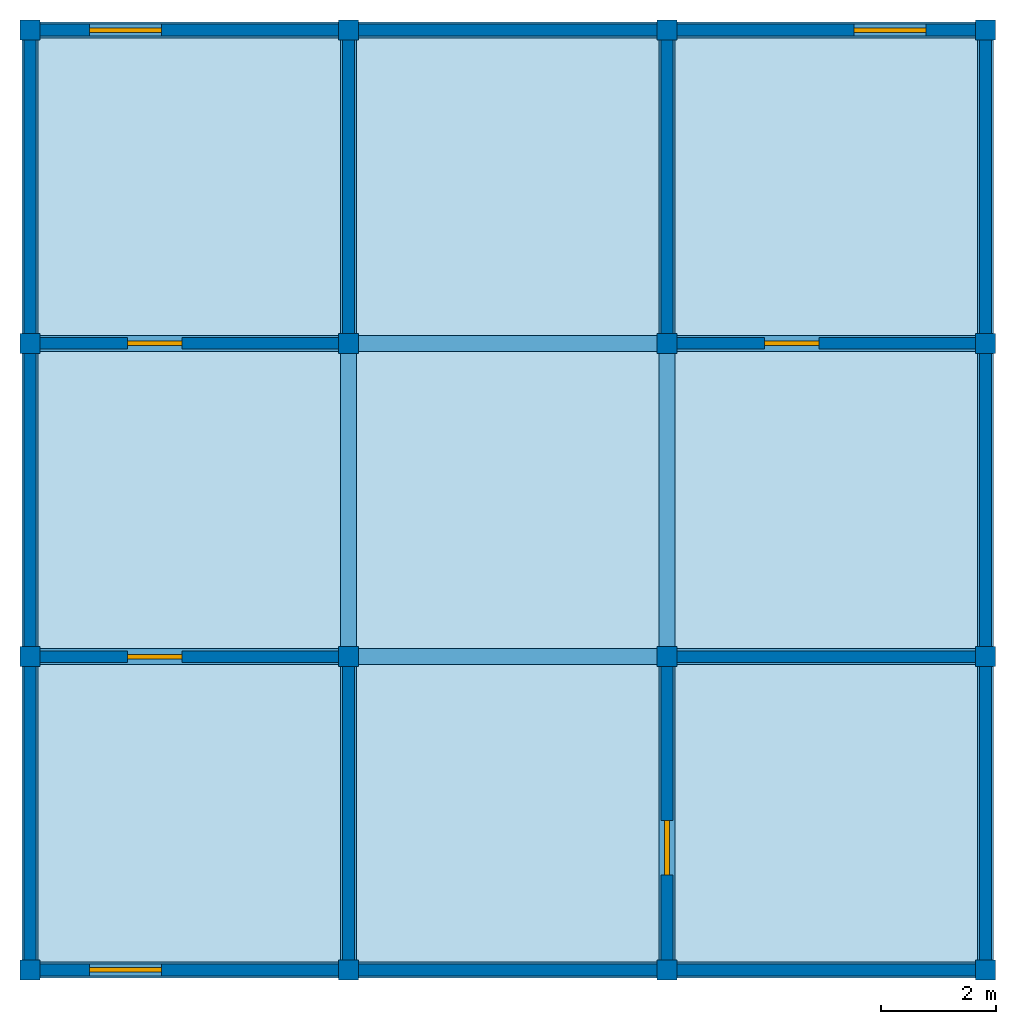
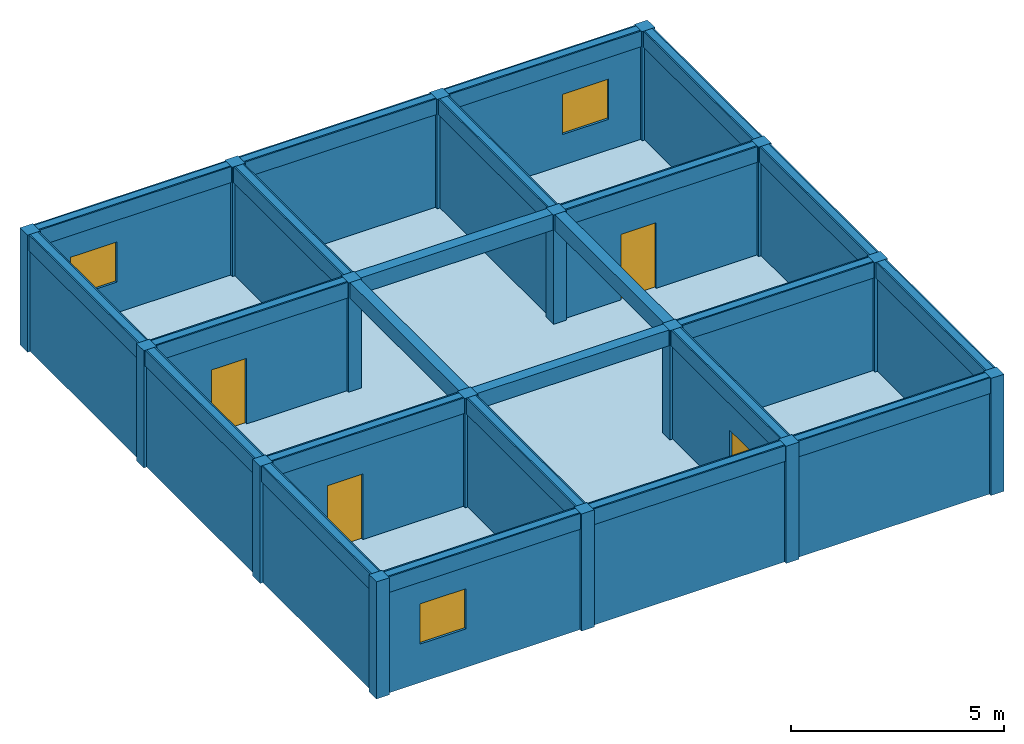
# One storey: 24 beams, 20 walls, 16 columns, 4 doors, 3 windows, 1 slab, 7 openings.
"""IFC4X3 building model written with IfcOpenShell, lengths in metres."""

import ifcopenshell
import ifcopenshell.guid

model = None  # the IFC model being written
_history = None  # IfcOwnerHistory: only IFC2X3 demands one
_inside = {}  # id of a spatial element -> (the spatial element, [elements in it])
_under = {}  # id of a project, library or spatial element -> (it, [spatial elements below it])
_declared = {}  # id of a project -> (the project, [libraries it declares])
_typed = {}  # id of a type object -> (the type object, [elements of that type])
_made_of = {}  # id of a material, layer set ... -> (it, [elements and type objects made of it])


def new_model(schema):
    """Start an empty IFC model of exactly this schema.

    Asked for "IFC4X3", IfcOpenShell would pick the latest addendum, in which some entities
    have other attributes; the version numbers below select the first issue.
    IFC2X3 requires an IfcOwnerHistory on every rooted entity: one is made here for all.
    """
    global model, _history
    if schema == "IFC4X3":
        model = ifcopenshell.file(schema_version=(4, 3, 0, 0))
    else:
        model = ifcopenshell.file(schema=schema)
    _inside.clear()
    _under.clear()
    _declared.clear()
    _typed.clear()
    _made_of.clear()
    _history = None
    if model.schema == "IFC2X3":
        org = make("IfcOrganization", Name="unknown")
        user = make(
            "IfcPersonAndOrganization",
            ThePerson=make("IfcPerson", FamilyName="unknown"),
            TheOrganization=org,
        )
        app = make(
            "IfcApplication",
            ApplicationDeveloper=org,
            Version="unknown",
            ApplicationFullName="unknown",
            ApplicationIdentifier="unknown",
        )
        _history = make(
            "IfcOwnerHistory",
            OwningUser=user,
            OwningApplication=app,
            ChangeAction="ADDED",
            CreationDate=0,
        )
    return model


def make(cls, **values):
    """One entity of the class cls with the attributes given. An attribute that is None is left unset."""
    return model.create_entity(
        cls, **{name: value for name, value in values.items() if value is not None}
    )


def rooted(cls, **values):
    """An entity with a GlobalId (a new one), such as an element, a storey or a relation."""
    return make(cls, GlobalId=ifcopenshell.guid.new(), OwnerHistory=_history, **values)


def si_unit(unit_type, name, prefix=None):
    """IfcSIUnit, for example si_unit("LENGTHUNIT", "METRE", prefix="MILLI")."""
    return make("IfcSIUnit", UnitType=unit_type, Prefix=prefix, Name=name)


def assignment(units):
    """IfcUnitAssignment: the units of a project."""
    return None if units is None else make("IfcUnitAssignment", Units=units)


def point(xyz):
    """IfcCartesianPoint."""
    return None if xyz is None else make("IfcCartesianPoint", Coordinates=xyz)


def direction(xyz):
    """IfcDirection."""
    return None if xyz is None else make("IfcDirection", DirectionRatios=xyz)


def frame(location, z_axis=None, x_axis=None):
    """IfcAxis2Placement3D, a coordinate frame: its origin and axes. An axis left out is left unset."""
    return make(
        "IfcAxis2Placement3D",
        Location=point(location),
        Axis=direction(z_axis),
        RefDirection=direction(x_axis),
    )


def frame_2d(location, x_axis=None):
    """IfcAxis2Placement2D, a coordinate frame in the plane: its origin and x axis."""
    return make(
        "IfcAxis2Placement2D", Location=point(location), RefDirection=direction(x_axis)
    )


def origin_with_axes():
    """The frame at (0, 0, 0) with the z axis (0, 0, 1) and the x axis (1, 0, 0) written out."""
    return frame((0.0, 0.0, 0.0), z_axis=(0.0, 0.0, 1.0), x_axis=(1.0, 0.0, 0.0))


def origin_2d():
    """The frame at (0, 0) in the plane with its x axis left unset."""
    return frame_2d((0.0, 0.0))


def place(relative_to, where):
    """IfcLocalPlacement: puts the frame where relative to a parent placement (None: the world)."""
    return make(
        "IfcLocalPlacement", PlacementRelTo=relative_to, RelativePlacement=where
    )


def context(
    kind, dimensions, precision=None, world=None, true_north=None, identifier=None
):
    """IfcGeometricRepresentationContext, for example the 3D "Model" context."""
    return make(
        "IfcGeometricRepresentationContext",
        ContextIdentifier=identifier,
        ContextType=kind,
        CoordinateSpaceDimension=dimensions,
        Precision=precision,
        WorldCoordinateSystem=world,
        TrueNorth=true_north,
    )


def project(units=None, contexts=None):
    """IfcProject with its units and contexts."""
    return rooted(
        "IfcProject",
        Name="project",
        RepresentationContexts=contexts,
        UnitsInContext=assignment(units),
    )


def spatial(cls, under=None, at=None, **own):
    """A site, building, storey or space (cls), placed at a placement, below another one or the project."""
    s = rooted(cls, ObjectPlacement=at, **own)
    if under is not None:
        _under.setdefault(under.id(), (under, []))[1].append(s)
    return s


def profile(cls, at=None, kind="AREA", **sizes):
    """A parametric profile (cls). Its sizes go by their IFC names, for example OverallWidth=200.0."""
    return make(cls, ProfileType=kind, Position=at, **sizes)


def rectangle(**sizes):
    """IfcRectangleProfileDef."""
    return profile("IfcRectangleProfileDef", **sizes)


def extrude(swept, where, along, depth):
    """IfcExtrudedAreaSolid: the profile swept, set in the frame where, extruded along a direction by depth."""
    return make(
        "IfcExtrudedAreaSolid",
        SweptArea=swept,
        Position=where,
        ExtrudedDirection=direction(along),
        Depth=depth,
    )


def shape(context_of_items, identifier, shape_type, items):
    """IfcShapeRepresentation: the items that make up one representation, for example the "Body"."""
    return make(
        "IfcShapeRepresentation",
        ContextOfItems=context_of_items,
        RepresentationIdentifier=identifier,
        RepresentationType=shape_type,
        Items=items,
    )


def material(Name=None, Category=None):
    """IfcMaterial."""
    return make("IfcMaterial", Name=Name, Category=Category)


def made_of(thing, what):
    """Note that an element or type object is made of a material, layer set ...; save() writes the relation."""
    if what is not None:
        _made_of.setdefault(what.id(), (what, []))[1].append(thing)
    return thing


def element(
    cls,
    number,
    at=None,
    inside=None,
    cuts=None,
    type_object=None,
    material=None,
    context=None,
    identifier="Body",
    shape_type=None,
    held_by="IfcProductDefinitionShape",
    body=None,
    shapes=None,
    **own,
):
    """One element of the class cls, such as IfcWall. Its Tag is "e" and its number.

    at: its placement. inside: the storey or other place that contains it. cuts: it is an
    opening in that element (IfcRelVoidsElement). A single representation is given by context,
    identifier, shape_type and body (its items); several are given by shapes. held_by: the class
    of the entity that holds the representations. save() writes the other relations.
    """
    e = rooted(cls, Tag="e%d" % number, ObjectPlacement=at, **own)
    if body is not None:
        shapes = [shape(context, identifier, shape_type, body)]
    if shapes is not None:
        e.Representation = make(held_by, Representations=shapes)
    if inside is not None:
        _inside.setdefault(inside.id(), (inside, []))[1].append(e)
    if cuts is not None:
        rooted(
            "IfcRelVoidsElement", RelatingBuildingElement=cuts, RelatedOpeningElement=e
        )
    if type_object is not None:
        _typed.setdefault(type_object.id(), (type_object, []))[1].append(e)
    return made_of(e, material)


def fill(opening, filler):
    """IfcRelFillsElement: the door or window that sits in an opening."""
    return rooted(
        "IfcRelFillsElement",
        RelatingOpeningElement=opening,
        RelatedBuildingElement=filler,
    )


def aggregate(whole, parts):
    """IfcRelAggregates: a whole, such as a stair, and the parts it consists of."""
    return rooted("IfcRelAggregates", RelatingObject=whole, RelatedObjects=parts)


def save(model, path):
    """Write the relations noted so far, then the file.

    IfcRelAggregates (storeys below a building ...), IfcRelContainedInSpatialStructure (elements
    in a storey), IfcRelDefinesByType, IfcRelAssociatesMaterial and IfcRelDeclares: one each for
    every whole, place, type object, material and project.
    """
    for whole, parts in _under.values():
        aggregate(whole, parts)
    for where, things in _inside.values():
        rooted(
            "IfcRelContainedInSpatialStructure",
            RelatedElements=things,
            RelatingStructure=where,
        )
    for kind, things in _typed.values():
        rooted("IfcRelDefinesByType", RelatedObjects=things, RelatingType=kind)
    for what, things in _made_of.values():
        rooted("IfcRelAssociatesMaterial", RelatedObjects=things, RelatingMaterial=what)
    for by, libraries in _declared.values():
        rooted("IfcRelDeclares", RelatingContext=by, RelatedDefinitions=libraries)
    model.write(path)


model = new_model("IFC4X3")

# Units and contexts
model_context = context("Model", 3, precision=1e-05, world=origin_with_axes())
ifc_project = project(units=[si_unit("LENGTHUNIT", "METRE"), si_unit("AREAUNIT", "SQUARE_METRE"), si_unit("VOLUMEUNIT", "CUBIC_METRE")], contexts=[model_context])

# Site, building, storey
site = spatial("IfcSite", under=ifc_project, Name="La Serena Parcel", CompositionType="ELEMENT")
building = spatial("IfcBuilding", under=site, Name="Atlas Building", CompositionType="ELEMENT")
storey = spatial("IfcBuildingStorey", under=building, Name="Level 6", CompositionType="ELEMENT", Elevation=16.75)

# Columns
ifc_material_1 = material(Name="Timber")
column_1_placement = place(None, frame((-8.31, -8.175, 16.745), z_axis=(0.0, 0.0, 1.0), x_axis=(1.0, 0.0, 0.0)))
element("IfcColumn", 1, at=column_1_placement, inside=storey, material=ifc_material_1, Name="Column 6.1", ObjectType="Core Column", PredefinedType="NOTDEFINED", context=model_context, shape_type="SweptSolid", body=[
    extrude(rectangle(XDim=0.35, YDim=0.35, at=origin_2d()), origin_with_axes(), (0.0, 0.0, 1.0), 3.349),
])
column_2_placement = place(None, frame((-8.31, -2.725, 16.745), z_axis=(0.0, 0.0, 1.0), x_axis=(1.0, 0.0, 0.0)))
element("IfcColumn", 2, at=column_2_placement, inside=storey, material=ifc_material_1, Name="Column 6.2", ObjectType="Corner Column", PredefinedType="NOTDEFINED", context=model_context, shape_type="SweptSolid", body=[
    extrude(rectangle(XDim=0.35, YDim=0.35, at=origin_2d()), origin_with_axes(), (0.0, 0.0, 1.0), 3.349),
])
column_3_placement = place(None, frame((-8.31, 2.725, 16.745), z_axis=(0.0, 0.0, 1.0), x_axis=(1.0, 0.0, 0.0)))
element("IfcColumn", 3, at=column_3_placement, inside=storey, material=ifc_material_1, Name="Column 6.3", ObjectType="Corner Column", PredefinedType="COLUMN", context=model_context, shape_type="SweptSolid", body=[
    extrude(rectangle(XDim=0.35, YDim=0.35, at=origin_2d()), origin_with_axes(), (0.0, 0.0, 1.0), 3.349),
])
column_4_placement = place(None, frame((-8.31, 8.175, 16.745), z_axis=(0.0, 0.0, 1.0), x_axis=(1.0, 0.0, 0.0)))
element("IfcColumn", 4, at=column_4_placement, inside=storey, material=ifc_material_1, Name="Column 6.4", ObjectType="Facade Column", PredefinedType="NOTDEFINED", context=model_context, shape_type="SweptSolid", body=[
    extrude(rectangle(XDim=0.35, YDim=0.35, at=origin_2d()), origin_with_axes(), (0.0, 0.0, 1.0), 3.349),
])
column_5_placement = place(None, frame((-2.77, -8.175, 16.745), z_axis=(0.0, 0.0, 1.0), x_axis=(1.0, 0.0, 0.0)))
element("IfcColumn", 5, at=column_5_placement, inside=storey, material=ifc_material_1, Name="Column 6.5", ObjectType="Core Column", PredefinedType="NOTDEFINED", context=model_context, shape_type="SweptSolid", body=[
    extrude(rectangle(XDim=0.35, YDim=0.35, at=origin_2d()), origin_with_axes(), (0.0, 0.0, 1.0), 3.349),
])
column_6_placement = place(None, frame((-2.77, -2.725, 16.745), z_axis=(0.0, 0.0, 1.0), x_axis=(1.0, 0.0, 0.0)))
element("IfcColumn", 6, at=column_6_placement, inside=storey, material=ifc_material_1, Name="Column 6.6", ObjectType="Facade Column", PredefinedType="USERDEFINED", context=model_context, shape_type="SweptSolid", body=[
    extrude(rectangle(XDim=0.35, YDim=0.35, at=origin_2d()), origin_with_axes(), (0.0, 0.0, 1.0), 3.349),
])
column_7_placement = place(None, frame((-2.77, 2.725, 16.745), z_axis=(0.0, 0.0, 1.0), x_axis=(1.0, 0.0, 0.0)))
element("IfcColumn", 7, at=column_7_placement, inside=storey, material=ifc_material_1, Name="Column 6.7", ObjectType="Structural Column", PredefinedType="COLUMN", context=model_context, shape_type="SweptSolid", body=[
    extrude(rectangle(XDim=0.35, YDim=0.35, at=origin_2d()), origin_with_axes(), (0.0, 0.0, 1.0), 3.349),
])
column_8_placement = place(None, frame((-2.77, 8.175, 16.745), z_axis=(0.0, 0.0, 1.0), x_axis=(1.0, 0.0, 0.0)))
element("IfcColumn", 8, at=column_8_placement, inside=storey, material=ifc_material_1, Name="Column 6.8", ObjectType="Facade Column", PredefinedType="USERDEFINED", context=model_context, shape_type="SweptSolid", body=[
    extrude(rectangle(XDim=0.35, YDim=0.35, at=origin_2d()), origin_with_axes(), (0.0, 0.0, 1.0), 3.349),
])
column_9_placement = place(None, frame((2.77, -8.175, 16.745), z_axis=(0.0, 0.0, 1.0), x_axis=(1.0, 0.0, 0.0)))
element("IfcColumn", 9, at=column_9_placement, inside=storey, material=ifc_material_1, Name="Column 6.9", ObjectType="Core Column", PredefinedType="NOTDEFINED", context=model_context, shape_type="SweptSolid", body=[
    extrude(rectangle(XDim=0.35, YDim=0.35, at=origin_2d()), origin_with_axes(), (0.0, 0.0, 1.0), 3.349),
])
column_10_placement = place(None, frame((2.77, -2.725, 16.745), z_axis=(0.0, 0.0, 1.0), x_axis=(1.0, 0.0, 0.0)))
element("IfcColumn", 10, at=column_10_placement, inside=storey, material=ifc_material_1, Name="Column 6.10", ObjectType="Structural Column", PredefinedType="NOTDEFINED", context=model_context, shape_type="SweptSolid", body=[
    extrude(rectangle(XDim=0.35, YDim=0.35, at=origin_2d()), origin_with_axes(), (0.0, 0.0, 1.0), 3.349),
])
column_11_placement = place(None, frame((2.77, 2.725, 16.745), z_axis=(0.0, 0.0, 1.0), x_axis=(1.0, 0.0, 0.0)))
element("IfcColumn", 11, at=column_11_placement, inside=storey, material=ifc_material_1, Name="Column 6.11", ObjectType="Structural Column", PredefinedType="USERDEFINED", context=model_context, shape_type="SweptSolid", body=[
    extrude(rectangle(XDim=0.35, YDim=0.35, at=origin_2d()), origin_with_axes(), (0.0, 0.0, 1.0), 3.349),
])
column_12_placement = place(None, frame((2.77, 8.175, 16.745), z_axis=(0.0, 0.0, 1.0), x_axis=(1.0, 0.0, 0.0)))
element("IfcColumn", 12, at=column_12_placement, inside=storey, material=ifc_material_1, Name="Column 6.12", ObjectType="Corner Column", PredefinedType="USERDEFINED", context=model_context, shape_type="SweptSolid", body=[
    extrude(rectangle(XDim=0.35, YDim=0.35, at=origin_2d()), origin_with_axes(), (0.0, 0.0, 1.0), 3.349),
])
column_13_placement = place(None, frame((8.31, -8.175, 16.745), z_axis=(0.0, 0.0, 1.0), x_axis=(1.0, 0.0, 0.0)))
element("IfcColumn", 13, at=column_13_placement, inside=storey, material=ifc_material_1, Name="Column 6.13", ObjectType="Facade Column", PredefinedType="USERDEFINED", context=model_context, shape_type="SweptSolid", body=[
    extrude(rectangle(XDim=0.35, YDim=0.35, at=origin_2d()), origin_with_axes(), (0.0, 0.0, 1.0), 3.349),
])
column_14_placement = place(None, frame((8.31, -2.725, 16.745), z_axis=(0.0, 0.0, 1.0), x_axis=(1.0, 0.0, 0.0)))
element("IfcColumn", 14, at=column_14_placement, inside=storey, material=ifc_material_1, Name="Column 6.14", ObjectType="Core Column", PredefinedType="USERDEFINED", context=model_context, shape_type="SweptSolid", body=[
    extrude(rectangle(XDim=0.35, YDim=0.35, at=origin_2d()), origin_with_axes(), (0.0, 0.0, 1.0), 3.349),
])
column_15_placement = place(None, frame((8.31, 2.725, 16.745), z_axis=(0.0, 0.0, 1.0), x_axis=(1.0, 0.0, 0.0)))
element("IfcColumn", 15, at=column_15_placement, inside=storey, material=ifc_material_1, Name="Column 6.15", ObjectType="Structural Column", PredefinedType="NOTDEFINED", context=model_context, shape_type="SweptSolid", body=[
    extrude(rectangle(XDim=0.35, YDim=0.35, at=origin_2d()), origin_with_axes(), (0.0, 0.0, 1.0), 3.349),
])
column_16_placement = place(None, frame((8.31, 8.175, 16.745), z_axis=(0.0, 0.0, 1.0), x_axis=(1.0, 0.0, 0.0)))
element("IfcColumn", 16, at=column_16_placement, inside=storey, material=ifc_material_1, Name="Column 6.16", ObjectType="Corner Column", PredefinedType="PILASTER", context=model_context, shape_type="SweptSolid", body=[
    extrude(rectangle(XDim=0.35, YDim=0.35, at=origin_2d()), origin_with_axes(), (0.0, 0.0, 1.0), 3.349),
])

# Beams
ifc_material_2 = material(Name="Concrete")
beam_1_placement = place(None, frame((-5.54, -8.175, 19.644), z_axis=(0.0, 0.0, 1.0), x_axis=(1.0, 0.0, 0.0)))
element("IfcBeam", 17, at=beam_1_placement, inside=storey, material=ifc_material_2, Name="Beam 6.1", ObjectType="Primary Beam", PredefinedType="SPANDREL", context=model_context, shape_type="SweptSolid", body=[
    extrude(rectangle(XDim=5.54, YDim=0.28, at=origin_2d()), origin_with_axes(), (0.0, 0.0, 1.0), 0.45),
])
beam_2_placement = place(None, frame((0.0, -8.175, 19.644), z_axis=(0.0, 0.0, 1.0), x_axis=(1.0, 0.0, 0.0)))
element("IfcBeam", 18, at=beam_2_placement, inside=storey, material=ifc_material_2, Name="Beam 6.2", ObjectType="Secondary Beam", PredefinedType="T_BEAM", context=model_context, shape_type="SweptSolid", body=[
    extrude(rectangle(XDim=5.54, YDim=0.28, at=origin_2d()), origin_with_axes(), (0.0, 0.0, 1.0), 0.45),
])
beam_3_placement = place(None, frame((5.54, -8.175, 19.644), z_axis=(0.0, 0.0, 1.0), x_axis=(1.0, 0.0, 0.0)))
element("IfcBeam", 19, at=beam_3_placement, inside=storey, material=ifc_material_2, Name="Beam 6.3", ObjectType="Transfer Beam", PredefinedType="NOTDEFINED", context=model_context, shape_type="SweptSolid", body=[
    extrude(rectangle(XDim=5.54, YDim=0.28, at=origin_2d()), origin_with_axes(), (0.0, 0.0, 1.0), 0.45),
])
beam_4_placement = place(None, frame((-5.54, -2.725, 19.644), z_axis=(0.0, 0.0, 1.0), x_axis=(1.0, 0.0, 0.0)))
element("IfcBeam", 20, at=beam_4_placement, inside=storey, material=ifc_material_2, Name="Beam 6.4", ObjectType="Secondary Beam", PredefinedType="USERDEFINED", context=model_context, shape_type="SweptSolid", body=[
    extrude(rectangle(XDim=5.54, YDim=0.28, at=origin_2d()), origin_with_axes(), (0.0, 0.0, 1.0), 0.45),
])
beam_5_placement = place(None, frame((0.0, -2.725, 19.644), z_axis=(0.0, 0.0, 1.0), x_axis=(1.0, 0.0, 0.0)))
element("IfcBeam", 21, at=beam_5_placement, inside=storey, material=ifc_material_2, Name="Beam 6.5", ObjectType="Transfer Beam", PredefinedType="JOIST", context=model_context, shape_type="SweptSolid", body=[
    extrude(rectangle(XDim=5.54, YDim=0.28, at=origin_2d()), origin_with_axes(), (0.0, 0.0, 1.0), 0.45),
])
beam_6_placement = place(None, frame((5.54, -2.725, 19.644), z_axis=(0.0, 0.0, 1.0), x_axis=(1.0, 0.0, 0.0)))
element("IfcBeam", 22, at=beam_6_placement, inside=storey, material=ifc_material_2, Name="Beam 6.6", ObjectType="Secondary Beam", PredefinedType="JOIST", context=model_context, shape_type="SweptSolid", body=[
    extrude(rectangle(XDim=5.54, YDim=0.28, at=origin_2d()), origin_with_axes(), (0.0, 0.0, 1.0), 0.45),
])
beam_7_placement = place(None, frame((-5.54, 2.725, 19.644), z_axis=(0.0, 0.0, 1.0), x_axis=(1.0, 0.0, 0.0)))
element("IfcBeam", 23, at=beam_7_placement, inside=storey, material=ifc_material_2, Name="Beam 6.7", ObjectType="Rafter Beam", PredefinedType="SPANDREL", context=model_context, shape_type="SweptSolid", body=[
    extrude(rectangle(XDim=5.54, YDim=0.28, at=origin_2d()), origin_with_axes(), (0.0, 0.0, 1.0), 0.45),
])
beam_8_placement = place(None, frame((0.0, 2.725, 19.644), z_axis=(0.0, 0.0, 1.0), x_axis=(1.0, 0.0, 0.0)))
element("IfcBeam", 24, at=beam_8_placement, inside=storey, material=ifc_material_2, Name="Beam 6.8", ObjectType="Secondary Beam", PredefinedType="JOIST", context=model_context, shape_type="SweptSolid", body=[
    extrude(rectangle(XDim=5.54, YDim=0.28, at=origin_2d()), origin_with_axes(), (0.0, 0.0, 1.0), 0.45),
])
beam_9_placement = place(None, frame((5.54, 2.725, 19.644), z_axis=(0.0, 0.0, 1.0), x_axis=(1.0, 0.0, 0.0)))
element("IfcBeam", 25, at=beam_9_placement, inside=storey, material=ifc_material_2, Name="Beam 6.9", ObjectType="Ridge Beam", PredefinedType="HOLLOWCORE", context=model_context, shape_type="SweptSolid", body=[
    extrude(rectangle(XDim=5.54, YDim=0.28, at=origin_2d()), origin_with_axes(), (0.0, 0.0, 1.0), 0.45),
])
beam_10_placement = place(None, frame((-5.54, 8.175, 19.644), z_axis=(0.0, 0.0, 1.0), x_axis=(1.0, 0.0, 0.0)))
element("IfcBeam", 26, at=beam_10_placement, inside=storey, material=ifc_material_2, Name="Beam 6.10", ObjectType="Secondary Beam", PredefinedType="USERDEFINED", context=model_context, shape_type="SweptSolid", body=[
    extrude(rectangle(XDim=5.54, YDim=0.28, at=origin_2d()), origin_with_axes(), (0.0, 0.0, 1.0), 0.45),
])
beam_11_placement = place(None, frame((0.0, 8.175, 19.644), z_axis=(0.0, 0.0, 1.0), x_axis=(1.0, 0.0, 0.0)))
element("IfcBeam", 27, at=beam_11_placement, inside=storey, material=ifc_material_2, Name="Beam 6.11", ObjectType="Primary Beam", PredefinedType="JOIST", context=model_context, shape_type="SweptSolid", body=[
    extrude(rectangle(XDim=5.54, YDim=0.28, at=origin_2d()), origin_with_axes(), (0.0, 0.0, 1.0), 0.45),
])
beam_12_placement = place(None, frame((5.54, 8.175, 19.644), z_axis=(0.0, 0.0, 1.0), x_axis=(1.0, 0.0, 0.0)))
element("IfcBeam", 28, at=beam_12_placement, inside=storey, material=ifc_material_2, Name="Beam 6.12", ObjectType="Ridge Beam", PredefinedType="NOTDEFINED", context=model_context, shape_type="SweptSolid", body=[
    extrude(rectangle(XDim=5.54, YDim=0.28, at=origin_2d()), origin_with_axes(), (0.0, 0.0, 1.0), 0.45),
])
beam_13_placement = place(None, frame((-8.31, -5.45, 19.644), z_axis=(0.0, 0.0, 1.0), x_axis=(0.0, 1.0, 0.0)))
element("IfcBeam", 29, at=beam_13_placement, inside=storey, material=ifc_material_2, Name="Beam 6.13", ObjectType="Secondary Beam", PredefinedType="USERDEFINED", context=model_context, shape_type="SweptSolid", body=[
    extrude(rectangle(XDim=5.45, YDim=0.28, at=origin_2d()), origin_with_axes(), (0.0, 0.0, 1.0), 0.45),
])
beam_14_placement = place(None, frame((-8.31, 0.0, 19.644), z_axis=(0.0, 0.0, 1.0), x_axis=(0.0, 1.0, 0.0)))
element("IfcBeam", 30, at=beam_14_placement, inside=storey, material=ifc_material_2, Name="Beam 6.14", ObjectType="Transfer Beam", PredefinedType="JOIST", context=model_context, shape_type="SweptSolid", body=[
    extrude(rectangle(XDim=5.45, YDim=0.28, at=origin_2d()), origin_with_axes(), (0.0, 0.0, 1.0), 0.45),
])
beam_15_placement = place(None, frame((-8.31, 5.45, 19.644), z_axis=(0.0, 0.0, 1.0), x_axis=(0.0, 1.0, 0.0)))
element("IfcBeam", 31, at=beam_15_placement, inside=storey, material=ifc_material_2, Name="Beam 6.15", ObjectType="Primary Beam", PredefinedType="T_BEAM", context=model_context, shape_type="SweptSolid", body=[
    extrude(rectangle(XDim=5.45, YDim=0.28, at=origin_2d()), origin_with_axes(), (0.0, 0.0, 1.0), 0.45),
])
beam_16_placement = place(None, frame((-2.77, -5.45, 19.644), z_axis=(0.0, 0.0, 1.0), x_axis=(0.0, 1.0, 0.0)))
element("IfcBeam", 32, at=beam_16_placement, inside=storey, material=ifc_material_2, Name="Beam 6.16", ObjectType="Transfer Beam", PredefinedType="BEAM", context=model_context, shape_type="SweptSolid", body=[
    extrude(rectangle(XDim=5.45, YDim=0.28, at=origin_2d()), origin_with_axes(), (0.0, 0.0, 1.0), 0.45),
])
beam_17_placement = place(None, frame((-2.77, 0.0, 19.644), z_axis=(0.0, 0.0, 1.0), x_axis=(0.0, 1.0, 0.0)))
element("IfcBeam", 33, at=beam_17_placement, inside=storey, material=ifc_material_2, Name="Beam 6.17", ObjectType="Primary Beam", PredefinedType="BEAM", context=model_context, shape_type="SweptSolid", body=[
    extrude(rectangle(XDim=5.45, YDim=0.28, at=origin_2d()), origin_with_axes(), (0.0, 0.0, 1.0), 0.45),
])
beam_18_placement = place(None, frame((-2.77, 5.45, 19.644), z_axis=(0.0, 0.0, 1.0), x_axis=(0.0, 1.0, 0.0)))
element("IfcBeam", 34, at=beam_18_placement, inside=storey, material=ifc_material_2, Name="Beam 6.18", ObjectType="Rafter Beam", PredefinedType="USERDEFINED", context=model_context, shape_type="SweptSolid", body=[
    extrude(rectangle(XDim=5.45, YDim=0.28, at=origin_2d()), origin_with_axes(), (0.0, 0.0, 1.0), 0.45),
])
beam_19_placement = place(None, frame((2.77, -5.45, 19.644), z_axis=(0.0, 0.0, 1.0), x_axis=(0.0, 1.0, 0.0)))
element("IfcBeam", 35, at=beam_19_placement, inside=storey, material=ifc_material_2, Name="Beam 6.19", ObjectType="Transfer Beam", PredefinedType="USERDEFINED", context=model_context, shape_type="SweptSolid", body=[
    extrude(rectangle(XDim=5.45, YDim=0.28, at=origin_2d()), origin_with_axes(), (0.0, 0.0, 1.0), 0.45),
])
beam_20_placement = place(None, frame((2.77, 0.0, 19.644), z_axis=(0.0, 0.0, 1.0), x_axis=(0.0, 1.0, 0.0)))
element("IfcBeam", 36, at=beam_20_placement, inside=storey, material=ifc_material_2, Name="Beam 6.20", ObjectType="Secondary Beam", PredefinedType="NOTDEFINED", context=model_context, shape_type="SweptSolid", body=[
    extrude(rectangle(XDim=5.45, YDim=0.28, at=origin_2d()), origin_with_axes(), (0.0, 0.0, 1.0), 0.45),
])
beam_21_placement = place(None, frame((2.77, 5.45, 19.644), z_axis=(0.0, 0.0, 1.0), x_axis=(0.0, 1.0, 0.0)))
element("IfcBeam", 37, at=beam_21_placement, inside=storey, material=ifc_material_2, Name="Beam 6.21", ObjectType="Secondary Beam", PredefinedType="LINTEL", context=model_context, shape_type="SweptSolid", body=[
    extrude(rectangle(XDim=5.45, YDim=0.28, at=origin_2d()), origin_with_axes(), (0.0, 0.0, 1.0), 0.45),
])
beam_22_placement = place(None, frame((8.31, -5.45, 19.644), z_axis=(0.0, 0.0, 1.0), x_axis=(0.0, 1.0, 0.0)))
element("IfcBeam", 38, at=beam_22_placement, inside=storey, material=ifc_material_2, Name="Beam 6.22", ObjectType="Secondary Beam", PredefinedType="JOIST", context=model_context, shape_type="SweptSolid", body=[
    extrude(rectangle(XDim=5.45, YDim=0.28, at=origin_2d()), origin_with_axes(), (0.0, 0.0, 1.0), 0.45),
])
beam_23_placement = place(None, frame((8.31, 0.0, 19.644), z_axis=(0.0, 0.0, 1.0), x_axis=(0.0, 1.0, 0.0)))
element("IfcBeam", 39, at=beam_23_placement, inside=storey, material=ifc_material_2, Name="Beam 6.23", ObjectType="Secondary Beam", PredefinedType="LINTEL", context=model_context, shape_type="SweptSolid", body=[
    extrude(rectangle(XDim=5.45, YDim=0.28, at=origin_2d()), origin_with_axes(), (0.0, 0.0, 1.0), 0.45),
])
beam_24_placement = place(None, frame((8.31, 5.45, 19.644), z_axis=(0.0, 0.0, 1.0), x_axis=(0.0, 1.0, 0.0)))
element("IfcBeam", 40, at=beam_24_placement, inside=storey, material=ifc_material_2, Name="Beam 6.24", ObjectType="Secondary Beam", PredefinedType="JOIST", context=model_context, shape_type="SweptSolid", body=[
    extrude(rectangle(XDim=5.45, YDim=0.28, at=origin_2d()), origin_with_axes(), (0.0, 0.0, 1.0), 0.45),
])

# Slab
slab_placement = place(None, frame((0.0, 0.0, 16.75), z_axis=(0.0, 0.0, 1.0), x_axis=(1.0, 0.0, 0.0)))
element("IfcSlab", 41, at=slab_placement, inside=storey, material=ifc_material_2, Name="Slab 6", ObjectType="Floor Slab", PredefinedType="FLOOR", context=model_context, shape_type="SweptSolid", body=[
    extrude(rectangle(XDim=16.62, YDim=16.35, at=origin_2d()), origin_with_axes(), (0.0, 0.0, 1.0), 0.22),
])

# Wall, opening, door
ifc_material_3 = material(Name="Gypsum")
wall_1_placement = place(None, frame((-5.54, -2.725, 16.745), z_axis=(0.0, 0.0, 1.0), x_axis=(1.0, 0.0, 0.0)))
wall_1 = element("IfcWall", 42, at=wall_1_placement, inside=storey, material=ifc_material_3, Name="Wall 6.1", ObjectType="Corridor Partition", PredefinedType="NOTDEFINED", context=model_context, shape_type="SweptSolid", body=[
    extrude(rectangle(XDim=5.54, YDim=0.202565, at=origin_2d()), origin_with_axes(), (0.0, 0.0, 1.0), 3.349),
])
opening_1_placement = place(None, frame((-6.14, -2.725, 16.745), z_axis=(0.0, 0.0, 1.0), x_axis=(1.0, 0.0, 0.0)))
opening_1 = element("IfcOpeningElement", 43, at=opening_1_placement, cuts=wall_1, Name="Door opening 6.1", ObjectType="Door Opening", PredefinedType="OPENING", context=model_context, shape_type="SweptSolid", body=[
    extrude(rectangle(XDim=0.95, YDim=0.282565, at=origin_2d()), origin_with_axes(), (0.0, 0.0, 1.0), 2.1),
])
door_1_placement = place(None, frame((-6.14, -2.725, 16.745), z_axis=(0.0, 0.0, 1.0), x_axis=(1.0, 0.0, 0.0)))
door_1 = element("IfcDoor", 44, at=door_1_placement, inside=storey, Name="Door 6.1", ObjectType="Fire Door", OverallHeight=2.1, OverallWidth=0.95, context=model_context, shape_type="SweptSolid", body=[
    extrude(rectangle(XDim=0.95, YDim=0.08, at=origin_2d()), origin_with_axes(), (0.0, 0.0, 1.0), 2.1),
])
fill(opening_1, door_1)

# Wall
wall_2_placement = place(None, frame((-2.77, -5.45, 16.745), z_axis=(0.0, 0.0, 1.0), x_axis=(0.0, 1.0, 0.0)))
element("IfcWall", 45, at=wall_2_placement, inside=storey, material=ifc_material_2, Name="Wall 6.2", ObjectType="Corridor Partition", PredefinedType="ELEMENTEDWALL", context=model_context, shape_type="SweptSolid", body=[
    extrude(rectangle(XDim=5.45, YDim=0.202565, at=origin_2d()), origin_with_axes(), (0.0, 0.0, 1.0), 3.349),
])

# Wall, opening, window
ifc_material_4 = material(Name="CLT")
wall_3_placement = place(None, frame((-5.54, -8.175, 16.745), z_axis=(0.0, 0.0, 1.0), x_axis=(1.0, 0.0, 0.0)))
wall_3 = element("IfcWall", 46, at=wall_3_placement, inside=storey, material=ifc_material_4, Name="Wall 6.3", ObjectType="Exterior Wall", PredefinedType="PARTITIONING", context=model_context, shape_type="SweptSolid", body=[
    extrude(rectangle(XDim=5.54, YDim=0.202565, at=origin_2d()), origin_with_axes(), (0.0, 0.0, 1.0), 3.349),
])
opening_2_placement = place(None, frame((-6.648, -8.175, 17.845), z_axis=(0.0, 0.0, 1.0), x_axis=(1.0, 0.0, 0.0)))
opening_2 = element("IfcOpeningElement", 47, at=opening_2_placement, cuts=wall_3, Name="Window opening 6.2", ObjectType="Window Opening", PredefinedType="OPENING", context=model_context, shape_type="SweptSolid", body=[
    extrude(rectangle(XDim=1.25, YDim=0.282565, at=origin_2d()), origin_with_axes(), (0.0, 0.0, 1.0), 1.15),
])
window_1_placement = place(None, frame((-6.648, -8.175, 17.845), z_axis=(0.0, 0.0, 1.0), x_axis=(1.0, 0.0, 0.0)))
window_1 = element("IfcWindow", 48, at=window_1_placement, inside=storey, Name="Window 6.2", ObjectType="Fixed Window", OverallHeight=1.15, OverallWidth=1.25, context=model_context, shape_type="SweptSolid", body=[
    extrude(rectangle(XDim=1.25, YDim=0.08, at=origin_2d()), origin_with_axes(), (0.0, 0.0, 1.0), 1.15),
])
fill(opening_2, window_1)

# Wall
ifc_material_5 = material(Name="Brick")
wall_4_placement = place(None, frame((-8.31, -5.45, 16.745), z_axis=(0.0, 0.0, 1.0), x_axis=(0.0, 1.0, 0.0)))
element("IfcWall", 49, at=wall_4_placement, inside=storey, material=ifc_material_5, Name="Wall 6.4", ObjectType="Exterior Wall", PredefinedType="MOVABLE", context=model_context, shape_type="SweptSolid", body=[
    extrude(rectangle(XDim=5.45, YDim=0.202565, at=origin_2d()), origin_with_axes(), (0.0, 0.0, 1.0), 3.349),
])

# Wall, opening, door
wall_5_placement = place(None, frame((2.77, -5.45, 16.745), z_axis=(0.0, 0.0, 1.0), x_axis=(0.0, 1.0, 0.0)))
wall_5 = element("IfcWall", 50, at=wall_5_placement, inside=storey, material=ifc_material_4, Name="Wall 6.5", ObjectType="Corridor Partition", PredefinedType="POLYGONAL", context=model_context, shape_type="SweptSolid", body=[
    extrude(rectangle(XDim=5.45, YDim=0.202565, at=origin_2d()), origin_with_axes(), (0.0, 0.0, 1.0), 3.349),
])
opening_3_placement = place(None, frame((2.77, -6.05, 16.745), z_axis=(0.0, 0.0, 1.0), x_axis=(0.0, 1.0, 0.0)))
opening_3 = element("IfcOpeningElement", 51, at=opening_3_placement, cuts=wall_5, Name="Door opening 6.3", ObjectType="Door Opening", PredefinedType="OPENING", context=model_context, shape_type="SweptSolid", body=[
    extrude(rectangle(XDim=0.95, YDim=0.282565, at=origin_2d()), origin_with_axes(), (0.0, 0.0, 1.0), 2.1),
])
door_2_placement = place(None, frame((2.77, -6.05, 16.745), z_axis=(0.0, 0.0, 1.0), x_axis=(0.0, 1.0, 0.0)))
door_2 = element("IfcDoor", 52, at=door_2_placement, inside=storey, Name="Door 6.3", ObjectType="Entry Door", OverallHeight=2.1, OverallWidth=0.95, context=model_context, shape_type="SweptSolid", body=[
    extrude(rectangle(XDim=0.95, YDim=0.08, at=origin_2d()), origin_with_axes(), (0.0, 0.0, 1.0), 2.1),
])
fill(opening_3, door_2)

# Walls
wall_6_placement = place(None, frame((0.0, -8.175, 16.745), z_axis=(0.0, 0.0, 1.0), x_axis=(1.0, 0.0, 0.0)))
element("IfcWall", 53, at=wall_6_placement, inside=storey, material=ifc_material_5, Name="Wall 6.6", ObjectType="Exterior Wall", PredefinedType="STANDARD", context=model_context, shape_type="SweptSolid", body=[
    extrude(rectangle(XDim=5.54, YDim=0.202565, at=origin_2d()), origin_with_axes(), (0.0, 0.0, 1.0), 3.349),
])
wall_7_placement = place(None, frame((5.54, -2.725, 16.745), z_axis=(0.0, 0.0, 1.0), x_axis=(1.0, 0.0, 0.0)))
element("IfcWall", 54, at=wall_7_placement, inside=storey, material=ifc_material_4, Name="Wall 6.7", ObjectType="Corridor Partition", PredefinedType="MOVABLE", context=model_context, shape_type="SweptSolid", body=[
    extrude(rectangle(XDim=5.54, YDim=0.202565, at=origin_2d()), origin_with_axes(), (0.0, 0.0, 1.0), 3.349),
])
wall_8_placement = place(None, frame((8.31, -5.45, 16.745), z_axis=(0.0, 0.0, 1.0), x_axis=(0.0, 1.0, 0.0)))
element("IfcWall", 55, at=wall_8_placement, inside=storey, material=ifc_material_2, Name="Wall 6.8", ObjectType="Exterior Wall", PredefinedType="STANDARD", context=model_context, shape_type="SweptSolid", body=[
    extrude(rectangle(XDim=5.45, YDim=0.202565, at=origin_2d()), origin_with_axes(), (0.0, 0.0, 1.0), 3.349),
])
wall_9_placement = place(None, frame((5.54, -8.175, 16.745), z_axis=(0.0, 0.0, 1.0), x_axis=(1.0, 0.0, 0.0)))
element("IfcWall", 56, at=wall_9_placement, inside=storey, material=ifc_material_5, Name="Wall 6.9", ObjectType="Exterior Wall", PredefinedType="SHEAR", context=model_context, shape_type="SweptSolid", body=[
    extrude(rectangle(XDim=5.54, YDim=0.202565, at=origin_2d()), origin_with_axes(), (0.0, 0.0, 1.0), 3.349),
])

# Wall, opening, door
wall_10_placement = place(None, frame((-5.54, 2.725, 16.745), z_axis=(0.0, 0.0, 1.0), x_axis=(1.0, 0.0, 0.0)))
wall_10 = element("IfcWall", 57, at=wall_10_placement, inside=storey, material=ifc_material_4, Name="Wall 6.10", ObjectType="Corridor Partition", PredefinedType="USERDEFINED", context=model_context, shape_type="SweptSolid", body=[
    extrude(rectangle(XDim=5.54, YDim=0.202565, at=origin_2d()), origin_with_axes(), (0.0, 0.0, 1.0), 3.349),
])
opening_4_placement = place(None, frame((-6.14, 2.725, 16.745), z_axis=(0.0, 0.0, 1.0), x_axis=(1.0, 0.0, 0.0)))
opening_4 = element("IfcOpeningElement", 58, at=opening_4_placement, cuts=wall_10, Name="Door opening 6.4", ObjectType="Door Opening", PredefinedType="OPENING", context=model_context, shape_type="SweptSolid", body=[
    extrude(rectangle(XDim=0.95, YDim=0.282565, at=origin_2d()), origin_with_axes(), (0.0, 0.0, 1.0), 2.1),
])
door_3_placement = place(None, frame((-6.14, 2.725, 16.745), z_axis=(0.0, 0.0, 1.0), x_axis=(1.0, 0.0, 0.0)))
door_3 = element("IfcDoor", 59, at=door_3_placement, inside=storey, Name="Door 6.4", ObjectType="Entry Door", OverallHeight=2.1, OverallWidth=0.95, context=model_context, shape_type="SweptSolid", body=[
    extrude(rectangle(XDim=0.95, YDim=0.08, at=origin_2d()), origin_with_axes(), (0.0, 0.0, 1.0), 2.1),
])
fill(opening_4, door_3)

# Wall
wall_11_placement = place(None, frame((-8.31, 0.0, 16.745), z_axis=(0.0, 0.0, 1.0), x_axis=(0.0, 1.0, 0.0)))
element("IfcWall", 60, at=wall_11_placement, inside=storey, material=ifc_material_4, Name="Wall 6.11", ObjectType="Exterior Wall", PredefinedType="MOVABLE", context=model_context, shape_type="SweptSolid", body=[
    extrude(rectangle(XDim=5.45, YDim=0.202565, at=origin_2d()), origin_with_axes(), (0.0, 0.0, 1.0), 3.349),
])

# Wall, opening, door
wall_12_placement = place(None, frame((5.54, 2.725, 16.745), z_axis=(0.0, 0.0, 1.0), x_axis=(1.0, 0.0, 0.0)))
wall_12 = element("IfcWall", 61, at=wall_12_placement, inside=storey, material=ifc_material_3, Name="Wall 6.12", ObjectType="Corridor Partition", PredefinedType="PLUMBINGWALL", context=model_context, shape_type="SweptSolid", body=[
    extrude(rectangle(XDim=5.54, YDim=0.202565, at=origin_2d()), origin_with_axes(), (0.0, 0.0, 1.0), 3.349),
])
opening_5_placement = place(None, frame((4.94, 2.725, 16.745), z_axis=(0.0, 0.0, 1.0), x_axis=(1.0, 0.0, 0.0)))
opening_5 = element("IfcOpeningElement", 62, at=opening_5_placement, cuts=wall_12, Name="Door opening 6.6", ObjectType="Door Opening", PredefinedType="OPENING", context=model_context, shape_type="SweptSolid", body=[
    extrude(rectangle(XDim=0.95, YDim=0.282565, at=origin_2d()), origin_with_axes(), (0.0, 0.0, 1.0), 2.1),
])
door_4_placement = place(None, frame((4.94, 2.725, 16.745), z_axis=(0.0, 0.0, 1.0), x_axis=(1.0, 0.0, 0.0)))
door_4 = element("IfcDoor", 63, at=door_4_placement, inside=storey, Name="Door 6.6", ObjectType="Entry Door", OverallHeight=2.1, OverallWidth=0.95, context=model_context, shape_type="SweptSolid", body=[
    extrude(rectangle(XDim=0.95, YDim=0.08, at=origin_2d()), origin_with_axes(), (0.0, 0.0, 1.0), 2.1),
])
fill(opening_5, door_4)

# Wall
wall_13_placement = place(None, frame((8.31, 0.0, 16.745), z_axis=(0.0, 0.0, 1.0), x_axis=(0.0, 1.0, 0.0)))
element("IfcWall", 64, at=wall_13_placement, inside=storey, material=ifc_material_5, Name="Wall 6.13", ObjectType="Exterior Wall", PredefinedType="USERDEFINED", context=model_context, shape_type="SweptSolid", body=[
    extrude(rectangle(XDim=5.45, YDim=0.202565, at=origin_2d()), origin_with_axes(), (0.0, 0.0, 1.0), 3.349),
])

# Wall, opening, window
wall_14_placement = place(None, frame((-5.54, 8.175, 16.745), z_axis=(0.0, 0.0, 1.0), x_axis=(1.0, 0.0, 0.0)))
wall_14 = element("IfcWall", 65, at=wall_14_placement, inside=storey, material=ifc_material_3, Name="Wall 6.14", ObjectType="Exterior Wall", PredefinedType="POLYGONAL", context=model_context, shape_type="SweptSolid", body=[
    extrude(rectangle(XDim=5.54, YDim=0.202565, at=origin_2d()), origin_with_axes(), (0.0, 0.0, 1.0), 3.349),
])
opening_6_placement = place(None, frame((-6.648, 8.175, 17.845), z_axis=(0.0, 0.0, 1.0), x_axis=(1.0, 0.0, 0.0)))
opening_6 = element("IfcOpeningElement", 66, at=opening_6_placement, cuts=wall_14, Name="Window opening 6.5", ObjectType="Window Opening", PredefinedType="OPENING", context=model_context, shape_type="SweptSolid", body=[
    extrude(rectangle(XDim=1.25, YDim=0.282565, at=origin_2d()), origin_with_axes(), (0.0, 0.0, 1.0), 1.15),
])
window_2_placement = place(None, frame((-6.648, 8.175, 17.845), z_axis=(0.0, 0.0, 1.0), x_axis=(1.0, 0.0, 0.0)))
window_2 = element("IfcWindow", 67, at=window_2_placement, inside=storey, Name="Window 6.5", ObjectType="Fixed Window", OverallHeight=1.15, OverallWidth=1.25, context=model_context, shape_type="SweptSolid", body=[
    extrude(rectangle(XDim=1.25, YDim=0.08, at=origin_2d()), origin_with_axes(), (0.0, 0.0, 1.0), 1.15),
])
fill(opening_6, window_2)

# Walls
wall_15_placement = place(None, frame((-2.77, 5.45, 16.745), z_axis=(0.0, 0.0, 1.0), x_axis=(0.0, 1.0, 0.0)))
element("IfcWall", 68, at=wall_15_placement, inside=storey, material=ifc_material_2, Name="Wall 6.15", ObjectType="Corridor Partition", PredefinedType="SHEAR", context=model_context, shape_type="SweptSolid", body=[
    extrude(rectangle(XDim=5.45, YDim=0.202565, at=origin_2d()), origin_with_axes(), (0.0, 0.0, 1.0), 3.349),
])
wall_16_placement = place(None, frame((-8.31, 5.45, 16.745), z_axis=(0.0, 0.0, 1.0), x_axis=(0.0, 1.0, 0.0)))
element("IfcWall", 69, at=wall_16_placement, inside=storey, material=ifc_material_3, Name="Wall 6.16", ObjectType="Exterior Wall", PredefinedType="MOVABLE", context=model_context, shape_type="SweptSolid", body=[
    extrude(rectangle(XDim=5.45, YDim=0.202565, at=origin_2d()), origin_with_axes(), (0.0, 0.0, 1.0), 3.349),
])
wall_17_placement = place(None, frame((0.0, 8.175, 16.745), z_axis=(0.0, 0.0, 1.0), x_axis=(1.0, 0.0, 0.0)))
element("IfcWall", 70, at=wall_17_placement, inside=storey, material=ifc_material_3, Name="Wall 6.17", ObjectType="Exterior Wall", PredefinedType="NOTDEFINED", context=model_context, shape_type="SweptSolid", body=[
    extrude(rectangle(XDim=5.54, YDim=0.202565, at=origin_2d()), origin_with_axes(), (0.0, 0.0, 1.0), 3.349),
])
wall_18_placement = place(None, frame((2.77, 5.45, 16.745), z_axis=(0.0, 0.0, 1.0), x_axis=(0.0, 1.0, 0.0)))
element("IfcWall", 71, at=wall_18_placement, inside=storey, material=ifc_material_5, Name="Wall 6.18", ObjectType="Corridor Partition", PredefinedType="PARAPET", context=model_context, shape_type="SweptSolid", body=[
    extrude(rectangle(XDim=5.45, YDim=0.202565, at=origin_2d()), origin_with_axes(), (0.0, 0.0, 1.0), 3.349),
])

# Wall, opening, window
wall_19_placement = place(None, frame((5.54, 8.175, 16.745), z_axis=(0.0, 0.0, 1.0), x_axis=(1.0, 0.0, 0.0)))
wall_19 = element("IfcWall", 72, at=wall_19_placement, inside=storey, material=ifc_material_4, Name="Wall 6.19", ObjectType="Exterior Wall", PredefinedType="SOLIDWALL", context=model_context, shape_type="SweptSolid", body=[
    extrude(rectangle(XDim=5.54, YDim=0.202565, at=origin_2d()), origin_with_axes(), (0.0, 0.0, 1.0), 3.349),
])
opening_7_placement = place(None, frame((6.648, 8.175, 17.845), z_axis=(0.0, 0.0, 1.0), x_axis=(1.0, 0.0, 0.0)))
opening_7 = element("IfcOpeningElement", 73, at=opening_7_placement, cuts=wall_19, Name="Window opening 6.7", ObjectType="Window Opening", PredefinedType="OPENING", context=model_context, shape_type="SweptSolid", body=[
    extrude(rectangle(XDim=1.25, YDim=0.282565, at=origin_2d()), origin_with_axes(), (0.0, 0.0, 1.0), 1.15),
])
window_3_placement = place(None, frame((6.648, 8.175, 17.845), z_axis=(0.0, 0.0, 1.0), x_axis=(1.0, 0.0, 0.0)))
window_3 = element("IfcWindow", 74, at=window_3_placement, inside=storey, Name="Window 6.7", ObjectType="Louvre Window", OverallHeight=1.15, OverallWidth=1.25, context=model_context, shape_type="SweptSolid", body=[
    extrude(rectangle(XDim=1.25, YDim=0.08, at=origin_2d()), origin_with_axes(), (0.0, 0.0, 1.0), 1.15),
])
fill(opening_7, window_3)

# Wall
wall_20_placement = place(None, frame((8.31, 5.45, 16.745), z_axis=(0.0, 0.0, 1.0), x_axis=(0.0, 1.0, 0.0)))
element("IfcWall", 75, at=wall_20_placement, inside=storey, material=ifc_material_4, Name="Wall 6.20", ObjectType="Exterior Wall", PredefinedType="SOLIDWALL", context=model_context, shape_type="SweptSolid", body=[
    extrude(rectangle(XDim=5.45, YDim=0.202565, at=origin_2d()), origin_with_axes(), (0.0, 0.0, 1.0), 3.349),
])

save(model, "model.ifc")
